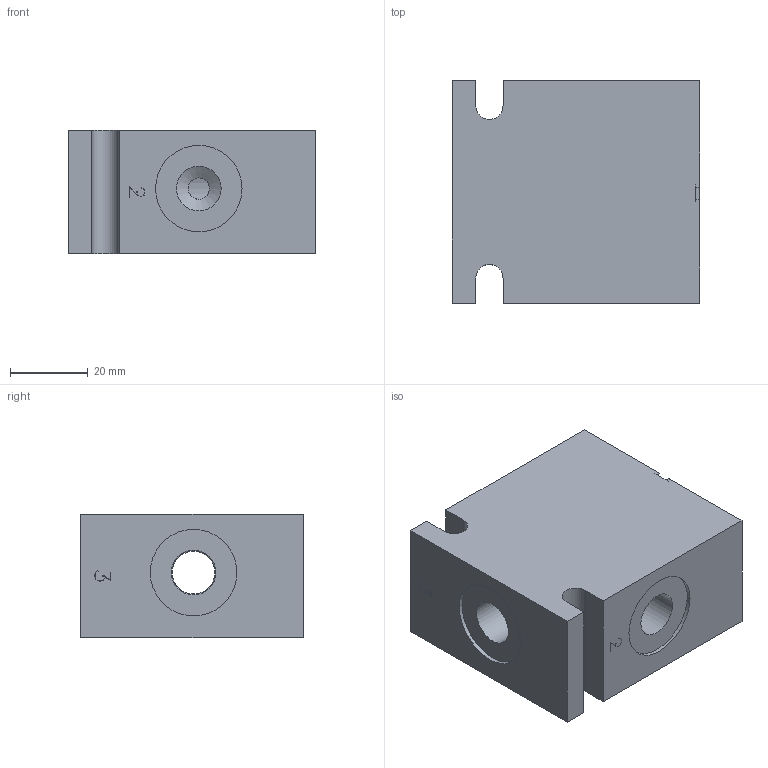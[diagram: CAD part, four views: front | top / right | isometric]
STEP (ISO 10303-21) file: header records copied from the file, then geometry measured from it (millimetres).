
FILE_DESCRIPTION( ( 'Unknown' ), '1' );
FILE_NAME( 'G:/Graphic Design/Graphic Design 2/Data Sheets/Delta Bodies/DRAWINGS/B-DPPA3.stp', 'Unknown', ( 'Unknown' ), ( 'Unknown' ), 'PSStep 16.0.42', 'Unknown', ' ' );
FILE_SCHEMA( ( 'AUTOMOTIVE_DESIGN { 1 0 10303 214 1 1 1 1 }' ) );
Length unit declared in the file: millimetre
Products named in the file (2): Assem1; B-DPPA3
Assembly tree (1 placements, depth 2):
  Assem1
    B-DPPA3
Bounding box: 63.5 x 57.2 x 31.75 mm (x, y, z)
Surface area: 19653.1 mm2 (no closed solid volume)
Topology: 0 solids, 121 shells, 121 faces, 609 edges, 582 vertices
Faces by surface type: plane 90, cylinder 23, cone 8
Full cylindrical faces by diameter (mm): 0.2 x3, 5.5 x1, 11 x2, 11.5 x6, 14.326 x1, 15.926 x2, 17.33 x1, 22.22 x3
Entity records: 6688 total; most frequent: CARTESIAN_POINT 1809, DIRECTION 620, ORIENTED_EDGE 568, EDGE_CURVE 568, VERTEX_POINT 568, B_SPLINE_CURVE_WITH_KNOTS 278, AXIS2_PLACEMENT_3D 207, LINE 206
